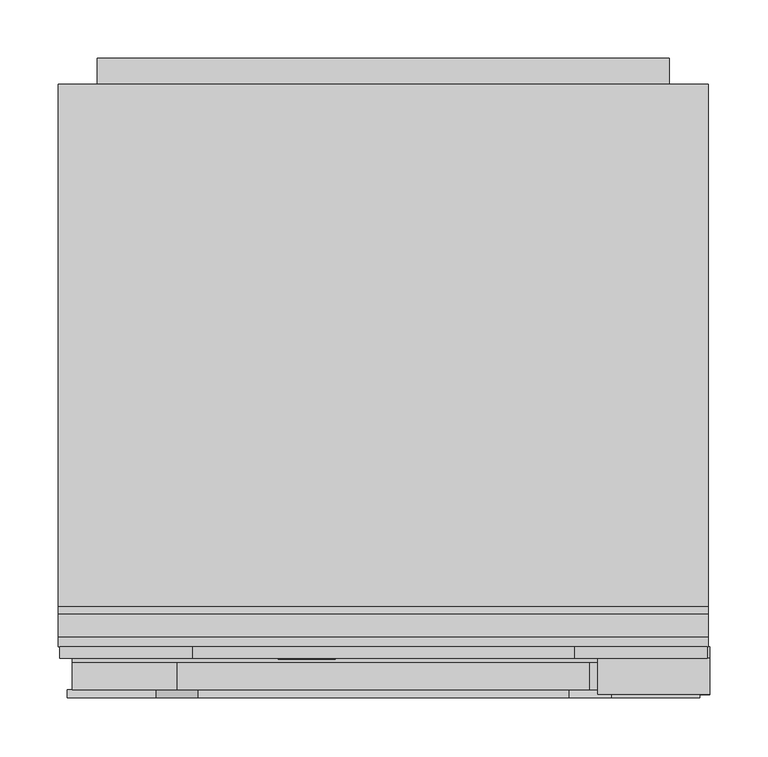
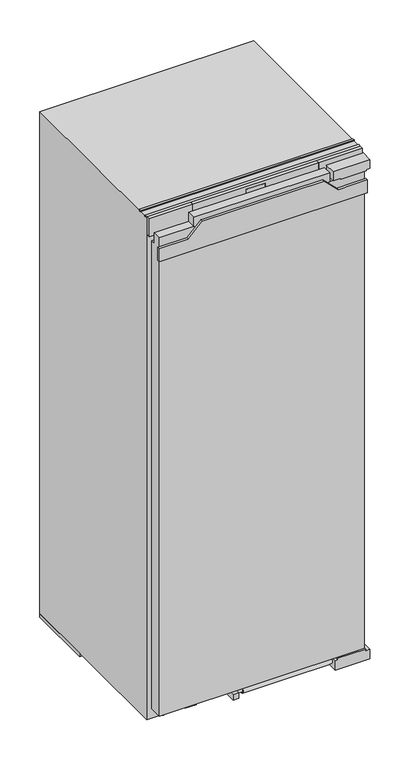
"""IFC4 building model written with IfcOpenShell, lengths in millimetres: proxy geometry, 11641350_EU1_K7473D : 36747300_EU1_11641350_K7473D."""

from ifc_helpers import new_model, si_unit, point, frame, frame_2d, origin, origin_with_axes, place, context, project, spatial, polyline, circle_curve, ellipse_curve, trimmed, segment, composite_curve, outline, extrude, faceted_brep, source, transform, mapped, element, save
from ifc_brep_helpers import plane_surface, cylinder_surface, revolved_surface, extruded_surface, advanced_brep


def specialty_equipment_453559af(model_context):
    return source(origin(), model_context, "Body", "SolidModel", [
        advanced_brep(
        [(-46.64, 33.0, 1367.896), (-46.64, 33.0, 1368.704), (-41.288, 33.0, 1368.704), (-50.6, 33.0, 1368.704), (-48.4, 33.0, 1366.0), (-41.424, 33.0, 1367.896), (-43.84, 33.0, 1367.896), (-45.744, 33.0, 1367.0), (-46.64, 33.0, 1369.728), (-46.64, 33.0, 1370.6), (-45.272, 33.0, 1370.6), (-45.272, 33.0, 1369.728), (-46.64, 34.0, 1367.896), (-45.744, 34.0, 1367.0), (-43.84, 34.0, 1367.896), (-41.424, 34.0, 1367.896), (-48.4, 34.0, 1366.0), (-50.6, 34.0, 1368.704), (-41.288, 34.0, 1368.704), (-46.64, 34.0, 1368.704), (-46.64, 34.0, 1369.728), (-45.272, 34.0, 1369.728), (-45.272, 34.0, 1370.6), (-46.64, 34.0, 1370.6)],
        [
            (0, 1),
            (1, 2),
            (2, 3, ellipse_curve(frame((-45.944, 33.0, 1368.704), z_axis=(0.0, -1.0, 0.0), x_axis=(-1.0, 0.0, 0.0)), 4.656, 3.848)),
            (3, 4, circle_curve(frame((-47.5039564, 33.0, 1368.976), z_axis=(0.0, -1.0, 0.0), x_axis=(0.0, 0.0, -1.0)), 3.1079688)),
            (4, 5, circle_curve(frame((-46.0372064, 33.0, 1371.088), z_axis=(0.0, -1.0, 0.0), x_axis=(0.0, 0.0, -1.0)), 5.6098607)),
            (5, 6),
            (6, 7, circle_curve(frame((-45.3529412, 33.0, 1368.64), z_axis=(0.0, 1.0, 0.0), x_axis=(0.0, 0.0, -1.0)), 1.6859795)),
            (7, 0, circle_curve(frame((-45.744, 33.0, 1367.896), z_axis=(0.0, 1.0, 0.0), x_axis=(0.0, 0.0, -1.0)), 0.896)),
            (8, 9),
            (9, 10, circle_curve(frame((-45.956, 33.0, 1370.6), z_axis=(0.0, 1.0, 0.0), x_axis=(0.0, 0.0, -1.0)), 0.684)),
            (10, 11),
            (11, 8),
            (12, 13, circle_curve(frame((-45.744, 34.0, 1367.896), z_axis=(0.0, -1.0, 0.0), x_axis=(0.0, 0.0, -1.0)), 0.896)),
            (13, 14, circle_curve(frame((-45.3529412, 34.0, 1368.64), z_axis=(0.0, -1.0, 0.0), x_axis=(0.0, 0.0, -1.0)), 1.6859795)),
            (14, 15),
            (15, 16, circle_curve(frame((-46.0372064, 34.0, 1371.088), z_axis=(0.0, 1.0, 0.0), x_axis=(0.0, 0.0, -1.0)), 5.6098607)),
            (16, 17, circle_curve(frame((-47.5039564, 34.0, 1368.976), z_axis=(0.0, 1.0, 0.0), x_axis=(0.0, 0.0, -1.0)), 3.1079688)),
            (17, 18, ellipse_curve(frame((-45.944, 34.0, 1368.704), z_axis=(0.0, 1.0, 0.0), x_axis=(-1.0, 0.0, 0.0)), 4.656, 3.848)),
            (18, 19),
            (19, 12),
            (20, 21),
            (21, 22),
            (22, 23, circle_curve(frame((-45.956, 34.0, 1370.6), z_axis=(0.0, -1.0, 0.0), x_axis=(0.0, 0.0, -1.0)), 0.684)),
            (23, 20),
            (0, 12),
            (19, 1),
            (18, 2),
            (5, 15),
            (14, 6),
            (17, 3),
            (13, 7),
            (16, 4),
            (8, 20),
            (23, 9),
            (22, 10),
            (21, 11),
        ],
        [
            plane_surface(frame((-46.64, 33.0, 1368.704), z_axis=(0.0, -1.0, 0.0), x_axis=(0.0, 0.0, 1.0))),
            plane_surface(frame((-46.64, 34.0, 1368.704), z_axis=(0.0, 1.0, 0.0), x_axis=(0.0, 0.0, -1.0))),
            plane_surface(frame((-46.64, 33.0, 1367.896), z_axis=(1.0, 0.0, 0.0), x_axis=(0.0, 1.0, 0.0))),
            plane_surface(frame((-46.64, 33.0, 1368.704), z_axis=(0.0, 0.0, -1.0), x_axis=(0.0, 1.0, 0.0))),
            plane_surface(frame((-41.424, 33.0, 1367.896), z_axis=(0.0, 0.0, 1.0), x_axis=(0.0, 1.0, 0.0))),
            extruded_surface(trimmed(ellipse_curve(frame((-45.944, 35.0, 1368.704), z_axis=(0.0, -1.0, 0.0), x_axis=(-1.0, 0.0, 0.0)), 4.656, 3.848), [point((-41.288, 35.0, 1368.704))], [point((-50.6, 35.0, 1368.704))], True, "CARTESIAN"), (0.0, -1.0, 0.0), 1.0),
            revolved_surface(polyline([(-45.3529412, 34.0, 1366.9540205), (-45.3529412, 33.0, 1366.9540205)]), (-45.3529412, 34.0, 1368.64), (0.0, 1.0, 0.0)),
            revolved_surface(polyline([(-45.744, 34.0, 1367.0), (-45.744, 33.0, 1367.0)]), (-45.744, 34.0, 1367.896), (0.0, 1.0, 0.0)),
            cylinder_surface(frame((-47.5039564, 34.0, 1368.976), z_axis=(0.0, -1.0, 0.0), x_axis=(0.0, 0.0, -1.0)), 3.1079688),
            cylinder_surface(frame((-46.0372064, 34.0, 1371.088), z_axis=(0.0, -1.0, 0.0), x_axis=(0.0, 0.0, -1.0)), 5.6098607),
            plane_surface(frame((-46.64, 33.0, 1369.728), z_axis=(1.0, 0.0, 0.0), x_axis=(0.0, 1.0, 0.0))),
            revolved_surface(polyline([(-45.956, 34.0, 1369.916), (-45.956, 33.0, 1369.916)]), (-45.956, 34.0, 1370.6), (0.0, 1.0, 0.0)),
            plane_surface(frame((-45.272, 33.0, 1370.6), z_axis=(-1.0, 0.0, 0.0), x_axis=(0.0, 1.0, 0.0))),
            plane_surface(frame((-45.272, 33.0, 1369.728), z_axis=(0.0, 0.0, 1.0), x_axis=(0.0, 1.0, 0.0))),
        ],
        [
            (0, [[1, 2, 3, 4, 5, 6, 7, 8], [9, 10, 11, 12]]),
            (1, [[13, 14, 15, 16, 17, 18, 19, 20], [21, 22, 23, 24]]),
            (2, [[-1, 25, -20, 26]]),
            (3, [[-2, -26, -19, 27]]),
            (4, [[-6, 28, -15, 29]]),
            (5, [[-3, -27, -18, 30]]),
            (6, [[-7, -29, -14, 31]]),
            (7, [[-8, -31, -13, -25]]),
            (8, [[-4, -30, -17, 32]]),
            (9, [[-5, -32, -16, -28]]),
            (10, [[-9, 33, -24, 34]]),
            (11, [[-10, -34, -23, 35]]),
            (12, [[-11, -35, -22, 36]]),
            (13, [[-12, -36, -21, -33]]),
        ],
    ),
        advanced_brep(
        [(-63.336, 33.0, 1367.896), (-63.336, 33.0, 1368.704), (-57.984, 33.0, 1368.704), (-67.296, 33.0, 1368.704), (-65.096, 33.0, 1366.0), (-58.12, 33.0, 1367.896), (-60.536, 33.0, 1367.896), (-62.44, 33.0, 1367.0), (-63.336, 33.0, 1369.728), (-63.336, 33.0, 1370.6), (-61.968, 33.0, 1370.6), (-61.968, 33.0, 1369.728), (-63.336, 34.0, 1367.896), (-62.44, 34.0, 1367.0), (-60.536, 34.0, 1367.896), (-58.12, 34.0, 1367.896), (-65.096, 34.0, 1366.0), (-67.296, 34.0, 1368.704), (-57.984, 34.0, 1368.704), (-63.336, 34.0, 1368.704), (-63.336, 34.0, 1369.728), (-61.968, 34.0, 1369.728), (-61.968, 34.0, 1370.6), (-63.336, 34.0, 1370.6)],
        [
            (0, 1),
            (1, 2),
            (2, 3, ellipse_curve(frame((-62.64, 33.0, 1368.704), z_axis=(0.0, -1.0, 0.0), x_axis=(-1.0, 0.0, 0.0)), 4.656, 3.848)),
            (3, 4, circle_curve(frame((-64.1999564, 33.0, 1368.976), z_axis=(0.0, -1.0, 0.0), x_axis=(0.0, 0.0, -1.0)), 3.1079688)),
            (4, 5, circle_curve(frame((-62.7332064, 33.0, 1371.088), z_axis=(0.0, -1.0, 0.0), x_axis=(0.0, 0.0, -1.0)), 5.6098607)),
            (5, 6),
            (6, 7, circle_curve(frame((-62.0489412, 33.0, 1368.64), z_axis=(0.0, 1.0, 0.0), x_axis=(0.0, 0.0, -1.0)), 1.6859795)),
            (7, 0, circle_curve(frame((-62.44, 33.0, 1367.896), z_axis=(0.0, 1.0, 0.0), x_axis=(0.0, 0.0, -1.0)), 0.896)),
            (8, 9),
            (9, 10, circle_curve(frame((-62.652, 33.0, 1370.6), z_axis=(0.0, 1.0, 0.0), x_axis=(0.0, 0.0, -1.0)), 0.684)),
            (10, 11),
            (11, 8),
            (12, 13, circle_curve(frame((-62.44, 34.0, 1367.896), z_axis=(0.0, -1.0, 0.0), x_axis=(0.0, 0.0, -1.0)), 0.896)),
            (13, 14, circle_curve(frame((-62.0489412, 34.0, 1368.64), z_axis=(0.0, -1.0, 0.0), x_axis=(0.0, 0.0, -1.0)), 1.6859795)),
            (14, 15),
            (15, 16, circle_curve(frame((-62.7332064, 34.0, 1371.088), z_axis=(0.0, 1.0, 0.0), x_axis=(0.0, 0.0, -1.0)), 5.6098607)),
            (16, 17, circle_curve(frame((-64.1999564, 34.0, 1368.976), z_axis=(0.0, 1.0, 0.0), x_axis=(0.0, 0.0, -1.0)), 3.1079688)),
            (17, 18, ellipse_curve(frame((-62.64, 34.0, 1368.704), z_axis=(0.0, 1.0, 0.0), x_axis=(-1.0, 0.0, 0.0)), 4.656, 3.848)),
            (18, 19),
            (19, 12),
            (20, 21),
            (21, 22),
            (22, 23, circle_curve(frame((-62.652, 34.0, 1370.6), z_axis=(0.0, -1.0, 0.0), x_axis=(0.0, 0.0, -1.0)), 0.684)),
            (23, 20),
            (0, 12),
            (19, 1),
            (18, 2),
            (5, 15),
            (14, 6),
            (17, 3),
            (13, 7),
            (16, 4),
            (8, 20),
            (23, 9),
            (22, 10),
            (21, 11),
        ],
        [
            plane_surface(frame((-63.336, 33.0, 1368.704), z_axis=(0.0, -1.0, 0.0), x_axis=(0.0, 0.0, 1.0))),
            plane_surface(frame((-63.336, 34.0, 1368.704), z_axis=(0.0, 1.0, 0.0), x_axis=(0.0, 0.0, -1.0))),
            plane_surface(frame((-63.336, 33.0, 1367.896), z_axis=(1.0, 0.0, 0.0), x_axis=(0.0, 1.0, 0.0))),
            plane_surface(frame((-63.336, 33.0, 1368.704), z_axis=(0.0, 0.0, -1.0), x_axis=(0.0, 1.0, 0.0))),
            plane_surface(frame((-58.12, 33.0, 1367.896), z_axis=(0.0, 0.0, 1.0), x_axis=(0.0, 1.0, 0.0))),
            extruded_surface(trimmed(ellipse_curve(frame((-62.64, 35.0, 1368.704), z_axis=(0.0, -1.0, 0.0), x_axis=(-1.0, 0.0, 0.0)), 4.656, 3.848), [point((-57.984, 35.0, 1368.704))], [point((-67.296, 35.0, 1368.704))], True, "CARTESIAN"), (0.0, -1.0, 0.0), 1.0),
            revolved_surface(polyline([(-62.0489412, 34.0, 1366.9540205), (-62.0489412, 33.0, 1366.9540205)]), (-62.0489412, 34.0, 1368.64), (0.0, 1.0, 0.0)),
            revolved_surface(polyline([(-62.44, 34.0, 1367.0), (-62.44, 33.0, 1367.0)]), (-62.44, 34.0, 1367.896), (0.0, 1.0, 0.0)),
            cylinder_surface(frame((-64.1999564, 34.0, 1368.976), z_axis=(0.0, -1.0, 0.0), x_axis=(0.0, 0.0, -1.0)), 3.1079688),
            cylinder_surface(frame((-62.7332064, 34.0, 1371.088), z_axis=(0.0, -1.0, 0.0), x_axis=(0.0, 0.0, -1.0)), 5.6098607),
            plane_surface(frame((-63.336, 33.0, 1369.728), z_axis=(1.0, 0.0, 0.0), x_axis=(0.0, 1.0, 0.0))),
            revolved_surface(polyline([(-62.652, 34.0, 1369.916), (-62.652, 33.0, 1369.916)]), (-62.652, 34.0, 1370.6), (0.0, 1.0, 0.0)),
            plane_surface(frame((-61.968, 33.0, 1370.6), z_axis=(-1.0, 0.0, 0.0), x_axis=(0.0, 1.0, 0.0))),
            plane_surface(frame((-61.968, 33.0, 1369.728), z_axis=(0.0, 0.0, 1.0), x_axis=(0.0, 1.0, 0.0))),
        ],
        [
            (0, [[1, 2, 3, 4, 5, 6, 7, 8], [9, 10, 11, 12]]),
            (1, [[13, 14, 15, 16, 17, 18, 19, 20], [21, 22, 23, 24]]),
            (2, [[-1, 25, -20, 26]]),
            (3, [[-2, -26, -19, 27]]),
            (4, [[-6, 28, -15, 29]]),
            (5, [[-3, -27, -18, 30]]),
            (6, [[-7, -29, -14, 31]]),
            (7, [[-8, -31, -13, -25]]),
            (8, [[-4, -30, -17, 32]]),
            (9, [[-5, -32, -16, -28]]),
            (10, [[-9, 33, -24, 34]]),
            (11, [[-10, -34, -23, 35]]),
            (12, [[-11, -35, -22, 36]]),
            (13, [[-12, -36, -21, -33]]),
        ],
    ),
        extrude(outline(polyline([(1373.528, -72.08), (1372.232, -71.472), (1373.496, -68.76), (1374.792, -69.36), (1373.528, -72.08)])), frame((0.0, 33.0, 0.0), z_axis=(0.0, 1.0, 0.0), x_axis=(0.0, 0.0, 1.0)), (0.0, 0.0, 1.0), 1.0),
        extrude(outline(polyline([(1372.056, -74.056), (1370.624, -74.056), (1370.624, -73.104), (1367.344, -73.104), (1367.344, -74.056), (1366.0, -74.056), (1366.0, -67.744), (1367.344, -67.744), (1367.344, -68.672), (1372.056, -68.672), (1372.056, -74.056)])), frame((0.0, 33.0, 0.0), z_axis=(0.0, 1.0, 0.0), x_axis=(0.0, 0.0, 1.0)), (0.0, 0.0, 1.0), 1.0),
        extrude(outline(polyline([(1372.696, -57.536), (1372.696, -56.576), (1367.344, -56.576), (1367.344, -57.536), (1366.0, -57.536), (1366.0, -51.048), (1367.344, -51.048), (1367.344, -52.032), (1374.0, -52.032), (1374.0, -57.536), (1372.696, -57.536)])), frame((0.0, 33.0, 0.0), z_axis=(0.0, 1.0, 0.0), x_axis=(0.0, 0.0, 1.0)), (0.0, 0.0, 1.0), 1.0),
        extrude(outline(polyline([(1372.696, -90.0), (1372.696, -89.032), (1367.344, -89.032), (1367.344, -90.0), (1366.0, -90.0), (1366.0, -86.48), (1367.344, -86.48), (1367.344, -87.44), (1370.7471247, -87.44), (1366.0, -83.864), (1370.8152223, -80.272), (1367.344, -80.272), (1367.344, -81.256), (1366.0, -81.256), (1366.0, -74.872), (1367.344, -74.872), (1367.344, -75.888), (1372.696, -75.888), (1372.696, -74.872), (1374.0, -74.872), (1374.0, -79.744), (1371.0, -82.08), (1374.0, -84.424), (1374.0, -90.0), (1372.696, -90.0)])), frame((0.0, 33.0, 0.0), z_axis=(0.0, 1.0, 0.0), x_axis=(0.0, 0.0, 1.0)), (0.0, 0.0, 1.0), 1.0),
        faceted_brep([(163.5, 34.0, 1395.0), (-163.5, 34.0, 1395.0), (-163.5, 34.0, 1346.0), (163.5, 34.0, 1346.0), (24.5, 34.0, 1388.0), (24.5, 34.0, 1352.0), (-24.5, 34.0, 1352.0), (-24.5, 34.0, 1388.0), (163.5, 44.0, 1395.0), (163.5, 44.0, 1346.0), (-163.5, 44.0, 1346.0), (-163.5, 44.0, 1395.0), (24.5, 35.0, 1388.0), (-24.5, 35.0, 1388.0), (-24.5, 35.0, 1352.0), (24.5, 35.0, 1352.0)], [[[0, 1, 2, 3], [4, 5, 6, 7]], [[8, 9, 10, 11]], [[0, 3, 9, 8]], [[3, 2, 10, 9]], [[2, 1, 11, 10]], [[1, 0, 8, 11]], [[12, 13, 14, 15]], [[12, 15, 5, 4]], [[15, 14, 6, 5]], [[14, 13, 7, 6]], [[13, 12, 4, 7]]]),
        extrude(outline(polyline([(163.5, 44.0), (277.5, 44.0), (277.5, 34.0), (163.5, 34.0), (163.5, 44.0)])), frame((0.0, 0.0, 1346.0), z_axis=(0.0, 0.0, 1.0), x_axis=(1.0, 0.0, 0.0)), (0.0, 0.0, 1.0), 49.0),
        extrude(outline(polyline([(-277.5, 44.0), (-163.5, 44.0), (-163.5, 34.0), (-277.5, 34.0), (-277.5, 44.0)])), frame((0.0, 0.0, 1346.0), z_axis=(0.0, 0.0, 1.0), x_axis=(1.0, 0.0, 0.0)), (0.0, 0.0, 1.0), 49.0),
        extrude(outline(polyline([(-24.5, 35.0), (24.5, 35.0), (24.5, 34.0), (-24.5, 34.0), (-24.5, 35.0)])), frame((0.0, 0.0, 1352.0), z_axis=(0.0, 0.0, 1.0), x_axis=(1.0, 0.0, 0.0)), (0.0, 0.0, 1.0), 36.0),
        extrude(outline(polyline([(1347.0, -245.0), (27.0, -245.0), (27.0, 245.0), (130.0, 245.0), (130.0, 180.0), (160.0, 180.0), (160.0, 245.0), (1347.0, 245.0), (1347.0, -245.0)])), frame((0.0, 526.0, 0.0), z_axis=(0.0, 1.0, 0.0), x_axis=(0.0, 0.0, 1.0)), (0.0, 0.0, 1.0), 22.0),
        extrude(outline(polyline([(-144.9296686, 52.0), (-174.0, 52.0), (-194.4880722, 346.0), (-165.4177409, 346.0), (-144.9296686, 52.0)])), origin_with_axes(), (0.0, 0.0, 1.0), 10.0),
        extrude(outline(polyline([(144.9296686, 52.0), (165.4177409, 346.0), (194.4880722, 346.0), (174.0, 52.0), (144.9296686, 52.0)])), origin_with_axes(), (0.0, 0.0, 1.0), 10.0),
        extrude(outline(polyline([(539.651012, 148.8988246), (539.651012, 150.150839), (546.8850603, 150.150839), (546.8850603, 140.1043073), (539.5027529, 140.1043073), (539.5027529, 141.3585545), (545.6152499, 141.3585545), (545.6152499, 144.6556887), (539.967462, 144.6556887), (539.967462, 145.9162842), (545.6270824, 145.9162842), (545.6270824, 148.8988246), (539.651012, 148.8988246)])), frame((193.5, 0.0, 0.0), z_axis=(1.0, 0.0, 0.0), x_axis=(0.0, 1.0, 0.0)), (0.0, 0.0, 1.0), 1.0),
        extrude(outline(polyline([(537.624075, 150.150839), (537.624075, 140.1043073), (531.3334819, 140.1043073), (531.3334819, 141.3573374), (536.3334819, 141.3573374), (536.3334819, 150.150839), (537.624075, 150.150839)])), frame((193.5, 0.0, 0.0), z_axis=(1.0, 0.0, 0.0), x_axis=(0.0, 1.0, 0.0)), (0.0, 0.0, 1.0), 1.0),
        advanced_brep(
        [(232.0, 526.0, 145.0), (217.0, 526.0, 145.0), (232.0, 547.5, 145.0), (217.0, 532.5, 145.0), (194.5, 547.5, 145.0), (194.5, 532.5, 145.0)],
        [
            (0, 1, circle_curve(frame((224.5, 526.0, 145.0), z_axis=(0.0, -1.0, 0.0), x_axis=(-1.0, 0.0, 0.0)), 7.5)),
            (1, 0, circle_curve(frame((224.5, 526.0, 145.0), z_axis=(0.0, -1.0, 0.0), x_axis=(-1.0, 0.0, 0.0)), 7.5)),
            (0, 2),
            (2, 3, ellipse_curve(frame((224.5, 540.0, 145.0), z_axis=(0.7071067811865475, -0.7071067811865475, 0.0), x_axis=(-0.7071067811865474, -0.7071067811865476, 0.0)), 10.6066017, 7.5)),
            (3, 1),
            (3, 2, ellipse_curve(frame((224.5, 540.0, 145.0), z_axis=(0.7071067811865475, -0.7071067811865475, 0.0), x_axis=(-0.7071067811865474, -0.7071067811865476, 0.0)), 10.6066017, 7.5)),
            (4, 5, circle_curve(frame((194.5, 540.0, 145.0), z_axis=(-1.0, 0.0, 0.0), x_axis=(0.0, -1.0, 0.0)), 7.5)),
            (5, 4, circle_curve(frame((194.5, 540.0, 145.0), z_axis=(-1.0, 0.0, 0.0), x_axis=(0.0, -1.0, 0.0)), 7.5)),
            (2, 4),
            (5, 3),
        ],
        [
            plane_surface(frame((224.5, 526.0, 145.0), z_axis=(0.0, -1.0, 0.0), x_axis=(0.0, 0.0, 1.0))),
            cylinder_surface(frame((224.5, 526.0, 145.0), z_axis=(0.0, -1.0, 0.0), x_axis=(-1.0, 0.0, 0.0)), 7.5),
            plane_surface(frame((194.5, 540.0, 145.0), z_axis=(-1.0, 0.0, 0.0), x_axis=(0.0, 0.0, 1.0))),
            cylinder_surface(frame((224.5, 540.0, 145.0), z_axis=(1.0, 0.0, 0.0), x_axis=(0.0, -1.0, 0.0)), 7.5),
        ],
        [
            (0, [[1, 2]]),
            (1, [[-1, 3, 4, 5]]),
            (1, [[-2, -5, 6, -3]]),
            (2, [[7, 8]]),
            (3, [[-4, 9, -8, 10]]),
            (3, [[-6, -10, -7, -9]]),
        ],
    ),
        extrude(outline(polyline([(-34.0, 44.0), (34.0, 44.0), (34.0, 35.0), (-34.0, 35.0), (-34.0, 44.0)])), frame((0.0, 0.0, 13.0), z_axis=(0.0, 0.0, 1.0), x_axis=(1.0, 0.0, 0.0)), (0.0, 0.0, 1.0), 19.0),
        extrude(outline(polyline([(-233.5, 44.0), (-233.5, 488.0), (233.5, 488.0), (233.5, 44.0), (-233.5, 44.0)])), frame((0.0, 0.0, 477.0), z_axis=(0.0, 0.0, 1.0), x_axis=(1.0, 0.0, 0.0)), (0.0, 0.0, 1.0), 3.0),
        extrude(outline(polyline([(-233.5, 350.0), (-233.5, 488.0), (233.5, 488.0), (233.5, 350.0), (-233.5, 350.0)])), frame((0.0, 0.0, 62.0), z_axis=(0.0, 0.0, 1.0), x_axis=(1.0, 0.0, 0.0)), (0.0, 0.0, 1.0), 188.0),
        extrude(outline(composite_curve([segment(trimmed(circle_curve(frame_2d((228.0, 64.0)), 11.0), [point((239.0, 64.0))], [point((217.0, 64.0))], False, "CARTESIAN"), True, "CONTINUOUS"), segment(trimmed(circle_curve(frame_2d((228.0, 64.0)), 11.0), [point((217.0, 64.0))], [point((239.0, 64.0))], False, "CARTESIAN"), True, "CONTINUOUS")], self_intersect=False)), origin_with_axes(), (0.0, 0.0, 1.0), 10.0),
        extrude(outline(composite_curve([segment(trimmed(circle_curve(frame_2d((-228.0, 64.0)), 11.0), [point((-217.0, 64.0))], [point((-239.0, 64.0))], False, "CARTESIAN"), True, "CONTINUOUS"), segment(trimmed(circle_curve(frame_2d((-228.0, 64.0)), 11.0), [point((-239.0, 64.0))], [point((-217.0, 64.0))], False, "CARTESIAN"), True, "CONTINUOUS")], self_intersect=False)), origin_with_axes(), (0.0, 0.0, 1.0), 10.0),
        extrude(outline(polyline([(278.5, 526.0), (278.5, 346.0), (-278.5, 346.0), (-278.5, 526.0), (278.5, 526.0)])), origin_with_axes(), (0.0, 0.0, 1.0), 10.0),
        extrude(outline(polyline([(278.5, 52.0), (278.5, 44.0), (-278.5, 44.0), (-278.5, 52.0), (278.5, 52.0)])), frame((0.0, 0.0, 1392.0), z_axis=(0.0, 0.0, 1.0), x_axis=(1.0, 0.0, 0.0)), (0.0, 0.0, 1.0), 3.0),
        extrude(outline(polyline([(278.5, 78.0), (278.5, 72.0), (-278.5, 72.0), (-278.5, 78.0), (278.5, 78.0)])), frame((0.0, 0.0, 1392.0), z_axis=(0.0, 0.0, 1.0), x_axis=(1.0, 0.0, 0.0)), (0.0, 0.0, 1.0), 3.0),
        faceted_brep([(278.5, 526.0, 1392.0), (-278.5, 526.0, 1392.0), (-278.5, 44.0, 1392.0), (278.5, 44.0, 1392.0), (278.5, 526.0, 10.0), (278.5, 44.0, 10.0), (-278.5, 44.0, 10.0), (-278.5, 526.0, 10.0), (233.5, 44.0, 62.0), (-233.5, 44.0, 62.0), (-233.5, 44.0, 570.0), (-233.5, 44.0, 1317.0), (233.5, 44.0, 1317.0), (233.5, 44.0, 570.0), (233.5, 488.0, 1317.0), (-233.5, 488.0, 1317.0), (-233.5, 488.0, 570.0), (-233.5, 488.0, 62.0), (233.5, 488.0, 62.0), (233.5, 488.0, 570.0)], [[[0, 1, 2, 3]], [[4, 5, 6, 7]], [[1, 0, 4, 7]], [[2, 1, 7, 6]], [[3, 2, 6, 5], [8, 9, 10, 11, 12, 13]], [[0, 3, 5, 4]], [[14, 15, 16, 17, 18, 19]], [[18, 8, 13, 12, 14, 19]], [[18, 17, 9, 8]], [[9, 17, 16, 15, 11, 10]], [[15, 14, 12, 11]]]),
        extrude(outline(polyline([(1295.0, 271.0), (1331.0, 271.0), (1331.0, 195.0), (1367.0, 159.0), (1367.0, -159.0), (1331.0, -195.0), (1331.0, -271.0), (1295.0, -271.0), (1295.0, 271.0)])), frame((0.0, 0.0, 0.0), z_axis=(0.0, 1.0, 0.0), x_axis=(0.0, 0.0, 1.0)), (0.0, 0.0, 1.0), 7.0),
        extrude(outline(composite_curve([segment(trimmed(circle_curve(frame_2d((-65.5, 25.0)), 6.5), [point((-72.0, 25.0))], [point((-59.0, 25.0))], False, "CARTESIAN"), True, "CONTINUOUS"), segment(trimmed(circle_curve(frame_2d((-65.5, 25.0)), 6.5), [point((-59.0, 25.0))], [point((-72.0, 25.0))], False, "CARTESIAN"), True, "CONTINUOUS")], self_intersect=False)), frame((0.0, 0.0, 29.0), z_axis=(0.0, 0.0, 1.0), x_axis=(1.0, 0.0, 0.0)), (0.0, 0.0, 1.0), 9.0),
        extrude(outline(polyline([(-74.0, 42.0), (-59.0, 42.0), (-59.0, 8.0), (-74.0, 8.0), (-74.0, 42.0)])), frame((0.0, 0.0, 14.0), z_axis=(0.0, 0.0, 1.0), x_axis=(1.0, 0.0, 0.0)), (0.0, 0.0, 1.0), 15.0),
        extrude(outline(polyline([(176.5, 7.0), (-176.5, 7.0), (-176.5, 30.0), (176.5, 30.0), (176.5, 7.0)])), frame((0.0, 0.0, 1355.0), z_axis=(0.0, 0.0, 1.0), x_axis=(1.0, 0.0, 0.0)), (0.0, 0.0, 1.0), 25.0),
        extrude(outline(polyline([(7.0, 38.0), (7.0, 1355.0), (30.0, 1355.0), (30.0, 1325.0), (44.0, 1325.0), (44.0, 38.0), (7.0, 38.0)])), frame((-266.5, 0.0, 0.0), z_axis=(1.0, 0.0, 0.0), x_axis=(0.0, 1.0, 0.0)), (0.0, 0.0, 1.0), 533.0),
        extrude(outline(polyline([(34.0, 189.5), (7.0, 189.5), (7.0, 279.5), (34.0, 279.5), (34.0, 268.5), (38.0, 268.5), (38.0, 195.5), (34.0, 195.5), (34.0, 189.5)])), frame((0.0, 3.0, 0.0), z_axis=(0.0, 1.0, 0.0), x_axis=(0.0, 0.0, 1.0)), (0.0, 0.0, 1.0), 41.0),
        extrude(outline(polyline([(1355.0, 203.5), (1355.0, 269.5), (1358.0, 269.5), (1358.0, 279.5), (1382.0, 279.5), (1382.0, 183.5), (1358.0, 183.5), (1358.0, 203.5), (1355.0, 203.5)])), frame((0.0, 3.0, 0.0), z_axis=(0.0, 1.0, 0.0), x_axis=(0.0, 0.0, 1.0)), (0.0, 0.0, 1.0), 31.0),
        extrude(outline(composite_curve([segment(trimmed(circle_curve(frame_2d((25.0, 23.0)), 6.0), [point((25.0, 29.0))], [point((25.0, 17.0))], False, "CARTESIAN"), True, "CONTINUOUS"), segment(trimmed(circle_curve(frame_2d((25.0, 23.0)), 6.0), [point((25.0, 17.0))], [point((25.0, 29.0))], False, "CARTESIAN"), True, "CONTINUOUS")], self_intersect=False)), frame((-59.0, 0.0, 0.0), z_axis=(1.0, 0.0, 0.0), x_axis=(0.0, 1.0, 0.0)), (0.0, 0.0, 1.0), 16.0),
        extrude(outline(composite_curve([segment(trimmed(circle_curve(frame_2d((25.0, 23.0)), 9.0), [point((25.0, 32.0))], [point((25.0, 14.0))], False, "CARTESIAN"), True, "CONTINUOUS"), segment(trimmed(circle_curve(frame_2d((25.0, 23.0)), 9.0), [point((25.0, 14.0))], [point((25.0, 32.0))], False, "CARTESIAN"), True, "CONTINUOUS")], self_intersect=False)), frame((-43.0, 0.0, 0.0), z_axis=(1.0, 0.0, 0.0), x_axis=(0.0, 1.0, 0.0)), (0.0, 0.0, 1.0), 232.5),
    ])


if __name__ == "__main__":
    model = new_model("IFC4")
    model_context = context("Model", 3, world=origin())
    ifc_project = project(units=[si_unit("LENGTHUNIT", "METRE", prefix="MILLI")], contexts=[model_context])
    site = spatial("IfcSite", under=ifc_project)
    building = spatial("IfcBuilding", under=site)
    placement = place(None, origin())
    specialty_equipment_shape = specialty_equipment_453559af(model_context)
    element("IfcBuildingElementProxy", 1, Name="11641350_EU1_K7473D : 36747300_EU1_11641350_K7473D", ObjectType="11641350_EU1_K7473D : 36747300_EU1_11641350_K7473D", at=placement, inside=building, context=model_context, shape_type="MappedRepresentation", body=[
        mapped(specialty_equipment_shape, transform((0.0, 0.0, 0.0), x_axis=(1.0, 0.0, 0.0), y_axis=(0.0, 1.0, 0.0), z_axis=(0.0, 0.0, 1.0))),
    ])
    save(model, "model.ifc")
